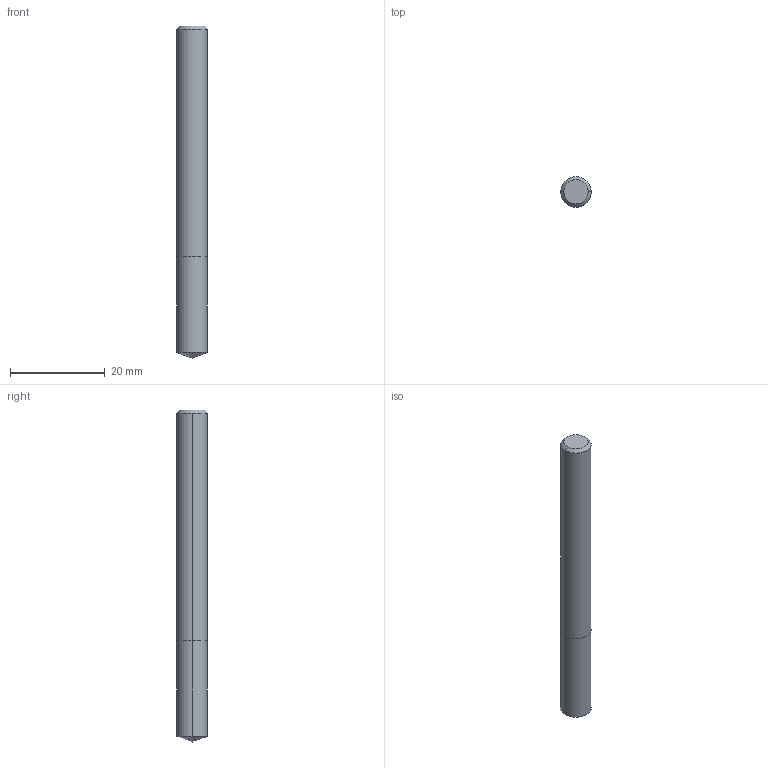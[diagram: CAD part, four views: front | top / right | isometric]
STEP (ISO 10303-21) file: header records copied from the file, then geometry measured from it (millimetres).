
FILE_DESCRIPTION (( 'STEP AP214' ), '1' );
FILE_NAME ('303.064.00_3D-model.step', '2022-02-19T15:55:49', ( '' ), ( '' ), 'SwSTEP 2.0', 'SolidWorks 2020', '' );
FILE_SCHEMA (( 'AUTOMOTIVE_DESIGN' ));
Length unit declared in the file: millimetre
Products named in the file (3): NOCUT-3D^Baugr35; CUT-3D^Baugr35; 303.064.00_3D-model
Assembly tree (2 placements, depth 2):
  303.064.00_3D-model
    CUT-3D^Baugr35
    NOCUT-3D^Baugr35
Bounding box: 6.4 x 6.4 x 70 mm (x, y, z)
Volume: 2223.1 mm3; surface area: 1506.7 mm2
Topology: 2 solids, 2 shells, 11 faces, 20 edges, 11 vertices
Faces by surface type: cone 4, cylinder 4, plane 3
Entity records: 380 total; most frequent: DIRECTION 66, CARTESIAN_POINT 48, ORIENTED_EDGE 36, AXIS2_PLACEMENT_3D 29, EDGE_CURVE 18, VERTEX_POINT 11, ADVANCED_FACE 11, EDGE_LOOP 11
